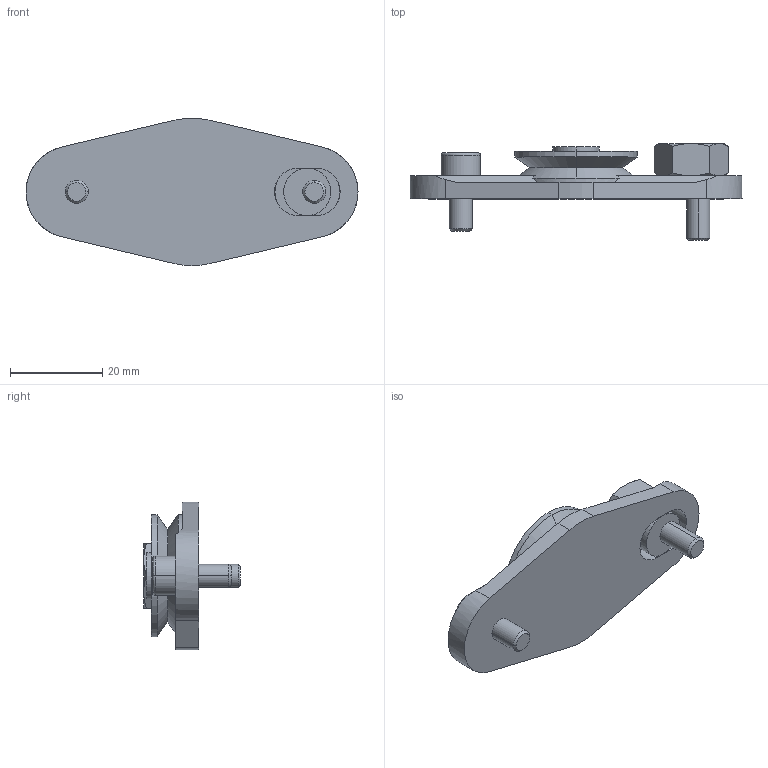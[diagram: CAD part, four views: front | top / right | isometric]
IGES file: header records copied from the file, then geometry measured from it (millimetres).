
Start section: 3D InterOp IGES (v. 2019 1.0.2), Spatial Corp. Copyright (c) 1999-2017.
Global section: file name: GBHJ 265 E.igs; native system: Spatial Corp.; preprocessor: 3D InterOp GENERIC/IGES 3.0; author: Noname; organization: Noname; date: 20220628.170607; units: millimetre
Bounding box: 72 x 21 x 31.95 mm (x, y, z)
Surface area: 6369.6 mm2 (no closed solid volume)
Topology: 0 solids, 0 shells, 107 faces, 500 edges, 498 vertices
Faces by surface type: revolution 61, extrusion 46
